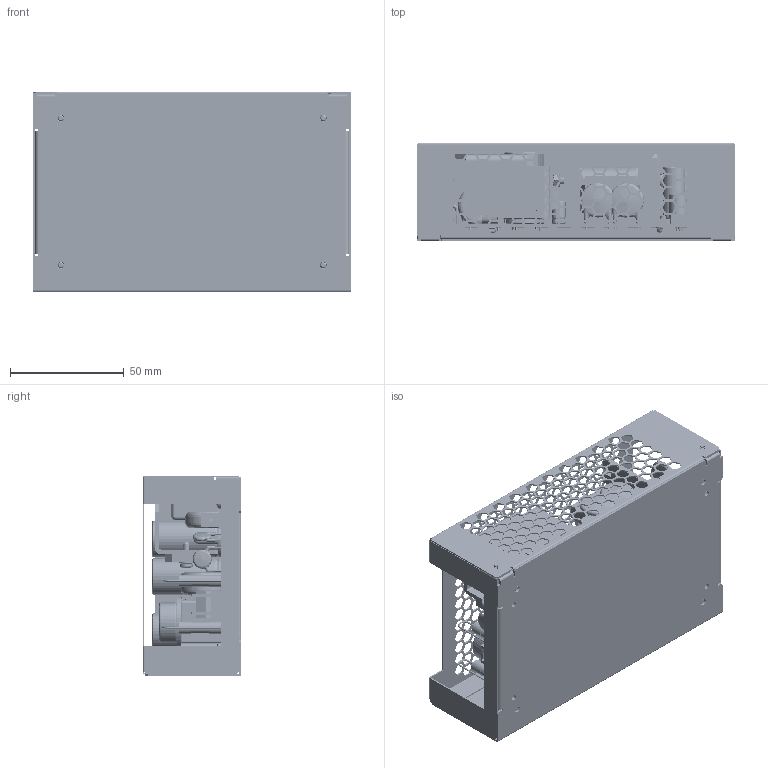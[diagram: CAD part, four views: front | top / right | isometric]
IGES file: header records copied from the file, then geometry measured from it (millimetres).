
Start section: SolidWorks IGES file using analytic representation for surfaces
Global section: file name: C:\Users\ksmith.XPNA\Desktop\GCS350\GCS350-C 24-56V\GCS350-C 24-56V.IGS; native system: SolidWorks 2017; preprocessor: SolidWorks 2017; author: ksmith; date: 180130.085504; units: inch
Bounding box: 139.7 x 43.18 x 88.47 mm (x, y, z)
Surface area: 181860 mm2 (no closed solid volume)
Topology: 0 solids, 0 shells, 7653 faces, 65722 edges, 65644 vertices
Faces by surface type: bspline 5798, revolution 1855
